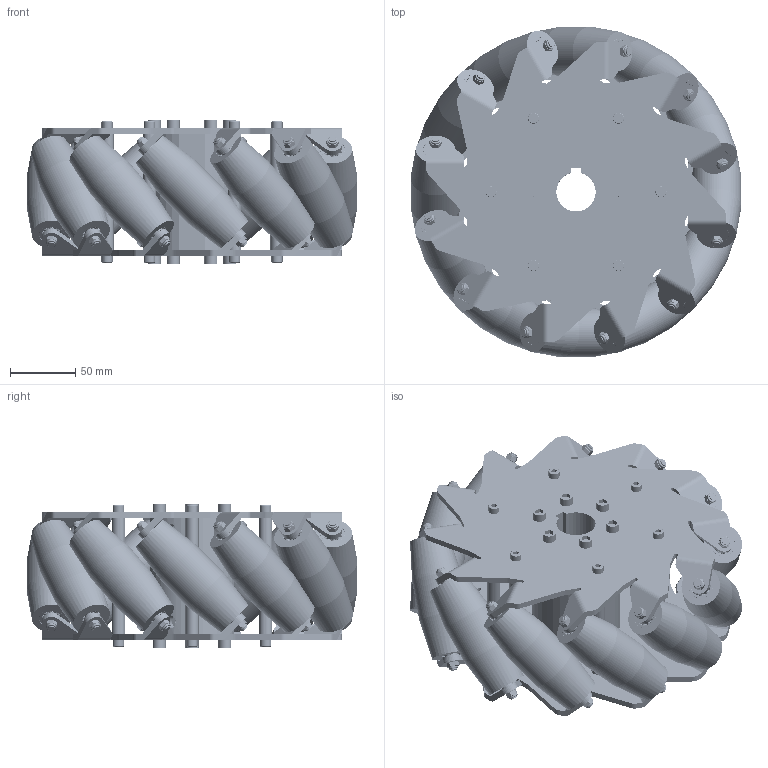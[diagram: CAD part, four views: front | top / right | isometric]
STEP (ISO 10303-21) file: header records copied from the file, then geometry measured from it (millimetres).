
FILE_DESCRIPTION (( 'STEP AP203' ), '1' );
FILE_NAME ('14197.STEP', '2019-09-30T03:56:31', ( 'Windows 蚚誧' ), ( '' ), 'SwSTEP 2.0', 'SolidWorks 2019', '' );
FILE_SCHEMA (( 'CONFIG_CONTROL_DESIGN' ));
Length unit declared in the file: millimetre
Products named in the file (23): 10IN45D12FLZ-04-02; 10IN45D12FLZ-04-00; 戚芛蹟佪M6; PD-朴5; FSLM-M5; 10IN45D12FLZ-01; 10IN45D12FLZ-03; 10IN45D12FLZ-04-01; 10渡45僅綠僅4.5MM晚え; 14197; SGQZC-626ZZ; LNJYZTLS-M5X12
Assembly tree (165 placements, depth 3):
  14197
    10IN45D12FLZ-01
    10IN45D12FLZ-03  x6
    10IN45D12FLZ-04-00
      10IN45D12FLZ-04-01
      SGQZC-626ZZ  x2
      10IN45D12FLZ-04-02
      PD-朴5  x2
    10IN45D12FLZ-04-00
      10IN45D12FLZ-04-01
      SGQZC-626ZZ  x2
      10IN45D12FLZ-04-02
      PD-朴5  x2
    10IN45D12FLZ-04-00
      10IN45D12FLZ-04-01
      SGQZC-626ZZ  x2
      10IN45D12FLZ-04-02
      PD-朴5  x2
    10IN45D12FLZ-04-00
      10IN45D12FLZ-04-01
      SGQZC-626ZZ  x2
      10IN45D12FLZ-04-02
      PD-朴5  x2
    10IN45D12FLZ-04-00
      10IN45D12FLZ-04-01
      SGQZC-626ZZ  x2
      10IN45D12FLZ-04-02
      PD-朴5  x2
    10IN45D12FLZ-04-00
      10IN45D12FLZ-04-01
      SGQZC-626ZZ  x2
      10IN45D12FLZ-04-02
      PD-朴5  x2
    10IN45D12FLZ-04-00
      10IN45D12FLZ-04-01
      SGQZC-626ZZ  x2
      10IN45D12FLZ-04-02
      PD-朴5  x2
    10IN45D12FLZ-04-00
      10IN45D12FLZ-04-01
      SGQZC-626ZZ  x2
      10IN45D12FLZ-04-02
      PD-朴5  x2
    10IN45D12FLZ-04-00
      10IN45D12FLZ-04-01
      SGQZC-626ZZ  x2
      10IN45D12FLZ-04-02
      PD-朴5  x2
    10IN45D12FLZ-04-00
      10IN45D12FLZ-04-01
      SGQZC-626ZZ  x2
      10IN45D12FLZ-04-02
      PD-朴5  x2
    10IN45D12FLZ-04-00
      10IN45D12FLZ-04-01
      SGQZC-626ZZ  x2
      10IN45D12FLZ-04-02
      PD-朴5  x2
    10IN45D12FLZ-04-00
      10IN45D12FLZ-04-01
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Bounding box: 253 x 253 x 110 mm (x, y, z)
Volume: 1728055.5 mm3; surface area: 531954.3 mm2
Topology: 585 solids, 585 shells, 4652 faces, 10980 edges, 6832 vertices
Faces by surface type: cylinder 1431, torus 1128, plane 1085, sphere 768, cone 240
Entity records: 22519 total; most frequent: CARTESIAN_POINT 3152, DIRECTION 3136, ORIENTED_EDGE 2428, AXIS2_PLACEMENT_3D 1248, EDGE_CURVE 1214, VERTEX_POINT 764, VECTOR 640, LINE 640
